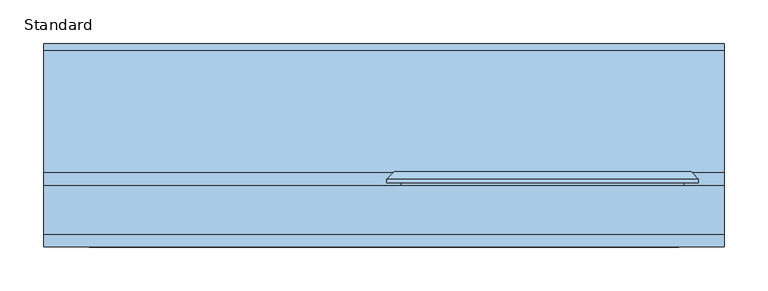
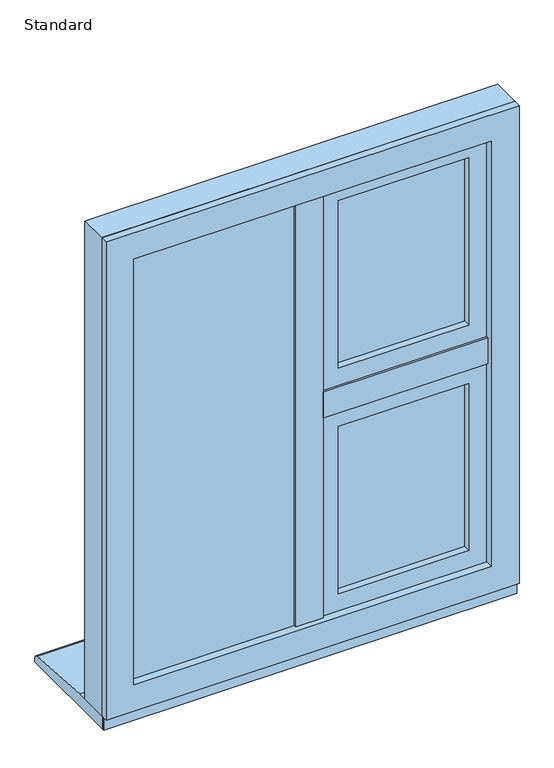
"""IFC4 building model written with IfcOpenShell, lengths in millimetres: window geometry, SMARTS_Alitherm600 : Standard."""

from ifc_helpers import new_model, si_unit, point, frame, frame_2d, origin, place, context, project, spatial, polyline, circle_curve, trimmed, segment, composite_curve, outline, extrude, faceted_brep, source, transform, mapped, element, save


def standard_4b04ff4b(model_context):
    return source(origin(), model_context, "Body", "SolidModel", [
        extrude(outline(polyline([(-9.4, 102.8298432), (9.4, 102.8298432), (9.4, 47.2458572), (-9.4, 47.2458572), (-9.4, 102.8298432)])), frame((0.0, 0.0, 670.8979117), z_axis=(0.0, 0.0, 1.0), x_axis=(1.0, 0.0, 0.0)), (0.0, 0.0, 1.0), 883.2041766),
        extrude(outline(polyline([(-25.9020883, 47.2458572), (25.9020883, 47.2458572), (25.9020883, 43.2798432), (-25.9020883, 43.2798432), (-25.9020883, 47.2458572)])), frame((0.0, 0.0, 687.4), z_axis=(0.0, 0.0, 1.0), x_axis=(1.0, 0.0, 0.0)), (0.0, 0.0, 1.0), 850.2),
        extrude(outline(polyline([(354.1020883, 102.8298432), (354.1020883, 47.2458572), (9.4979117, 47.2458572), (9.4979117, 102.8298432), (354.1020883, 102.8298432)])), frame((0.0, 0.0, 1103.1), z_axis=(0.0, 0.0, 1.0), x_axis=(1.0, 0.0, 0.0)), (0.0, 0.0, 1.0), 18.8),
        extrude(outline(polyline([(337.6, 47.2458572), (337.6, 43.2798432), (26.0, 43.2798432), (26.0, 47.2458572), (337.6, 47.2458572)])), frame((0.0, 0.0, 1086.5979117), z_axis=(0.0, 0.0, 1.0), x_axis=(1.0, 0.0, 0.0)), (0.0, 0.0, 1.0), 51.8041766),
        extrude(outline(polyline([(-352.6, 77.7798432), (-11.0, 77.7798432), (-11.0, 73.7798432), (-352.6, 73.7798432), (-352.6, 77.7798432)])), frame((0.0, 0.0, 672.4), z_axis=(0.0, 0.0, 1.0), x_axis=(1.0, 0.0, 0.0)), (0.0, 0.0, 1.0), 880.2),
        extrude(outline(polyline([(-352.6, 57.7798432), (-11.0, 57.7798432), (-11.0, 53.7798432), (-352.6, 53.7798432), (-352.6, 57.7798432)])), frame((0.0, 0.0, 672.4), z_axis=(0.0, 0.0, 1.0), x_axis=(1.0, 0.0, 0.0)), (0.0, 0.0, 1.0), 880.2),
        extrude(outline(polyline([(1552.6, -352.6), (672.4, -352.6), (672.4, -11.0), (1552.6, -11.0), (1552.6, -352.6)]), holes=[polyline([(1542.6, -21.0), (682.4, -21.0), (682.4, -342.6), (1542.6, -342.6), (1542.6, -21.0)])]), frame((0.0, 57.7798432, 0.0), z_axis=(0.0, 1.0, 0.0), x_axis=(0.0, 0.0, 1.0)), (0.0, 0.0, 1.0), 16.0),
        faceted_brep([(-349.4160653, 102.7798432, 1549.4160653), (-337.2339746, 81.6798432, 1537.2339746), (-337.2339746, 81.6798432, 687.7660254), (-349.4160653, 102.7798432, 675.5839347), (-26.3660254, 81.6798432, 687.7660254), (-14.1839347, 102.7798432, 675.5839347), (-26.3660254, 81.6798432, 1537.2339746), (-14.1839347, 102.7798432, 1549.4160653), (-9.5, 81.6798432, 1554.1), (-9.5, 102.7798432, 1554.1), (-354.1, 102.7798432, 1554.1), (-354.1, 81.6798432, 1554.1), (-354.1, 102.7798432, 670.9), (-354.1, 81.6798432, 670.9), (-9.5, 102.7798432, 670.9), (-9.5, 81.6798432, 670.9)], [[[0, 1, 2, 3]], [[3, 2, 4, 5]], [[5, 4, 6, 7]], [[7, 6, 1, 0]], [[8, 9, 10, 11]], [[11, 10, 12, 13]], [[13, 12, 14, 15]], [[9, 14, 12, 10], [0, 3, 5, 7]], [[15, 14, 9, 8]], [[11, 13, 15, 8], [6, 4, 2, 1]]]),
        extrude(outline(polyline([(1065.5, 47.0), (708.4, 47.0), (708.4, 316.6), (1065.5, 316.6), (1065.5, 47.0)]), holes=[polyline([(1055.5, 306.6), (718.4, 306.6), (718.4, 57.0), (1055.5, 57.0), (1055.5, 306.6)])]), frame((0.0, 72.3211351, 0.0), z_axis=(0.0, 1.0, 0.0), x_axis=(0.0, 0.0, 1.0)), (0.0, 0.0, 1.0), 16.0),
        extrude(outline(polyline([(47.0, 92.3211351), (316.6, 92.3211351), (316.6, 88.3211351), (47.0, 88.3211351), (47.0, 92.3211351)])), frame((0.0, 0.0, 708.4), z_axis=(0.0, 0.0, 1.0), x_axis=(1.0, 0.0, 0.0)), (0.0, 0.0, 1.0), 357.1),
        extrude(outline(polyline([(47.0, 72.3211351), (316.6, 72.3211351), (316.6, 68.3211351), (47.0, 68.3211351), (47.0, 72.3211351)])), frame((0.0, 0.0, 708.4), z_axis=(0.0, 0.0, 1.0), x_axis=(1.0, 0.0, 0.0)), (0.0, 0.0, 1.0), 357.1),
        faceted_brep([(316.9221147, 118.8818325, 1065.8221147), (304.740024, 97.7818325, 1053.640024), (58.859976, 97.7818325, 1053.640024), (46.6778853, 118.8818325, 1065.8221147), (321.6060494, 97.7818325, 1070.5060494), (321.6060494, 118.8818325, 1070.5060494), (41.9939506, 118.8818325, 1070.5060494), (41.9939506, 97.7818325, 1070.5060494), (58.859976, 97.7818325, 720.259976), (46.6778853, 118.8818325, 708.0778853), (41.9939506, 118.8818325, 703.3939506), (41.9939506, 97.7818325, 703.3939506), (304.740024, 97.7818325, 720.259976), (316.9221147, 118.8818325, 708.0778853), (321.6060494, 118.8818325, 703.3939506), (321.6060494, 97.7818325, 703.3939506)], [[[0, 1, 2, 3]], [[4, 5, 6, 7]], [[3, 2, 8, 9]], [[7, 6, 10, 11]], [[9, 8, 12, 13]], [[11, 10, 14, 15]], [[13, 12, 1, 0]], [[5, 14, 10, 6], [3, 9, 13, 0]], [[15, 14, 5, 4]], [[7, 11, 15, 4], [1, 12, 8, 2]]]),
        extrude(outline(polyline([(681.552908, 20.152908), (681.552908, 343.447092), (1092.347092, 343.447092), (1092.347092, 20.152908), (681.552908, 20.152908)]), holes=[polyline([(1054.0, 58.5), (1054.0, 305.1), (719.9, 305.1), (719.9, 58.5), (1054.0, 58.5)])]), frame((0.0, 50.2798432, 0.0), z_axis=(0.0, 1.0, 0.0), x_axis=(0.0, 0.0, 1.0)), (0.0, 0.0, 1.0), 13.0853156),
        faceted_brep([(41.9939506, 118.8818325, 1070.5060494), (41.9939506, 63.3651588, 1070.5060494), (41.9939506, 63.3651588, 703.3939506), (41.9939506, 118.8818325, 703.3939506), (321.6060494, 63.3651588, 703.3939506), (321.6060494, 118.8818325, 703.3939506), (321.6060494, 63.3651588, 1070.5060494), (321.6060494, 118.8818325, 1070.5060494), (3.2641012, 106.2818325, 1109.2358988), (3.2641012, 110.3519831, 1109.2358988), (3.2641012, 110.3519831, 664.6641012), (3.2641012, 106.2818325, 664.6641012), (360.3358988, 110.3519831, 664.6641012), (360.3358988, 106.2818325, 664.6641012), (360.3358988, 110.3519831, 1109.2358988), (360.3358988, 106.2818325, 1109.2358988), (19.8532343, 106.2818325, 1092.6467657), (343.7467657, 106.2818325, 1092.6467657), (343.7467657, 106.2818325, 681.2532343), (19.8532343, 106.2818325, 681.2532343), (11.7939506, 118.8818325, 1100.7060494), (351.8060494, 118.8818325, 1100.7060494), (351.8060494, 118.8818325, 673.1939506), (11.7939506, 118.8818325, 673.1939506), (19.8532343, 63.3651588, 1092.6467657), (19.8532343, 63.3651588, 681.2532343), (343.7467657, 63.3651588, 681.2532343), (343.7467657, 63.3651588, 1092.6467657)], [[[0, 1, 2, 3]], [[3, 2, 4, 5]], [[5, 4, 6, 7]], [[7, 6, 1, 0]], [[8, 9, 10, 11]], [[11, 10, 12, 13]], [[13, 12, 14, 15]], [[11, 13, 15, 8], [16, 17, 18, 19]], [[15, 14, 9, 8]], [[20, 21, 22, 23], [3, 5, 7, 0]], [[24, 16, 19, 25]], [[25, 19, 18, 26]], [[26, 18, 17, 27]], [[25, 26, 27, 24], [1, 6, 4, 2]], [[27, 17, 16, 24]], [[9, 20, 23, 10]], [[10, 23, 22, 12]], [[12, 22, 21, 14]], [[14, 21, 20, 9]]]),
        extrude(outline(polyline([(1590.0, 390.0), (1590.0, -390.0), (635.0, -390.0), (635.0, 390.0), (1590.0, 390.0)]), holes=[polyline([(670.85, 354.15), (670.85, -354.15), (1554.15, -354.15), (1554.15, 354.15), (670.85, 354.15)])]), frame((0.0, 47.2798427, 0.0), z_axis=(0.0, 1.0, 0.0), x_axis=(0.0, 0.0, 1.0)), (0.0, 0.0, 1.0), 55.5500006),
        extrude(outline(polyline([(1590.0, 390.0), (1590.0, -390.0), (635.0, -390.0), (635.0, 390.0), (1590.0, 390.0)]), holes=[polyline([(687.35, 337.65), (687.35, -337.65), (1537.65, -337.65), (1537.65, 337.65), (687.35, 337.65)])]), frame((0.0, 32.8298432, 0.0), z_axis=(0.0, 1.0, 0.0), x_axis=(0.0, 0.0, 1.0)), (0.0, 0.0, 1.0), 14.4499994),
        extrude(outline(polyline([(1516.6, 47.0), (1159.5, 47.0), (1159.5, 316.6), (1516.6, 316.6), (1516.6, 47.0)]), holes=[polyline([(1506.6, 306.6), (1169.5, 306.6), (1169.5, 57.0), (1506.6, 57.0), (1506.6, 306.6)])]), frame((0.0, 72.3211351, 0.0), z_axis=(0.0, 1.0, 0.0), x_axis=(0.0, 0.0, 1.0)), (0.0, 0.0, 1.0), 16.0),
        extrude(outline(polyline([(47.0, 92.3211351), (316.6, 92.3211351), (316.6, 88.3211351), (47.0, 88.3211351), (47.0, 92.3211351)])), frame((0.0, 0.0, 1159.5), z_axis=(0.0, 0.0, 1.0), x_axis=(1.0, 0.0, 0.0)), (0.0, 0.0, 1.0), 357.1),
        extrude(outline(polyline([(47.0, 72.3211351), (316.6, 72.3211351), (316.6, 68.3211351), (47.0, 68.3211351), (47.0, 72.3211351)])), frame((0.0, 0.0, 1159.5), z_axis=(0.0, 0.0, 1.0), x_axis=(1.0, 0.0, 0.0)), (0.0, 0.0, 1.0), 357.1),
        faceted_brep([(316.9221147, 118.8818325, 1516.9221147), (304.740024, 97.7818325, 1504.740024), (58.859976, 97.7818325, 1504.740024), (46.6778853, 118.8818325, 1516.9221147), (321.6060494, 97.7818325, 1521.6060494), (321.6060494, 118.8818325, 1521.6060494), (41.9939506, 118.8818325, 1521.6060494), (41.9939506, 97.7818325, 1521.6060494), (58.859976, 97.7818325, 1171.359976), (46.6778853, 118.8818325, 1159.1778853), (41.9939506, 118.8818325, 1154.4939506), (41.9939506, 97.7818325, 1154.4939506), (304.740024, 97.7818325, 1171.359976), (316.9221147, 118.8818325, 1159.1778853), (321.6060494, 118.8818325, 1154.4939506), (321.6060494, 97.7818325, 1154.4939506)], [[[0, 1, 2, 3]], [[4, 5, 6, 7]], [[3, 2, 8, 9]], [[7, 6, 10, 11]], [[9, 8, 12, 13]], [[11, 10, 14, 15]], [[13, 12, 1, 0]], [[5, 14, 10, 6], [3, 9, 13, 0]], [[15, 14, 5, 4]], [[7, 11, 15, 4], [1, 12, 8, 2]]]),
        extrude(outline(polyline([(1132.652908, 20.152908), (1132.652908, 343.447092), (1543.447092, 343.447092), (1543.447092, 20.152908), (1132.652908, 20.152908)]), holes=[polyline([(1505.1, 58.5), (1505.1, 305.1), (1171.0, 305.1), (1171.0, 58.5), (1505.1, 58.5)])]), frame((0.0, 50.2798432, 0.0), z_axis=(0.0, 1.0, 0.0), x_axis=(0.0, 0.0, 1.0)), (0.0, 0.0, 1.0), 13.0853156),
        faceted_brep([(41.9939506, 118.8818325, 1521.6060494), (41.9939506, 63.3651588, 1521.6060494), (41.9939506, 63.3651588, 1154.4939506), (41.9939506, 118.8818325, 1154.4939506), (321.6060494, 63.3651588, 1154.4939506), (321.6060494, 118.8818325, 1154.4939506), (321.6060494, 63.3651588, 1521.6060494), (321.6060494, 118.8818325, 1521.6060494), (3.2641012, 106.2818325, 1560.3358988), (3.2641012, 110.3519831, 1560.3358988), (3.2641012, 110.3519831, 1115.7641012), (3.2641012, 106.2818325, 1115.7641012), (360.3358988, 110.3519831, 1115.7641012), (360.3358988, 106.2818325, 1115.7641012), (360.3358988, 110.3519831, 1560.3358988), (360.3358988, 106.2818325, 1560.3358988), (19.8532343, 106.2818325, 1543.7467657), (343.7467657, 106.2818325, 1543.7467657), (343.7467657, 106.2818325, 1132.3532343), (19.8532343, 106.2818325, 1132.3532343), (11.7939506, 118.8818325, 1551.8060494), (351.8060494, 118.8818325, 1551.8060494), (351.8060494, 118.8818325, 1124.2939506), (11.7939506, 118.8818325, 1124.2939506), (19.8532343, 63.3651588, 1543.7467657), (19.8532343, 63.3651588, 1132.3532343), (343.7467657, 63.3651588, 1132.3532343), (343.7467657, 63.3651588, 1543.7467657)], [[[0, 1, 2, 3]], [[3, 2, 4, 5]], [[5, 4, 6, 7]], [[7, 6, 1, 0]], [[8, 9, 10, 11]], [[11, 10, 12, 13]], [[13, 12, 14, 15]], [[11, 13, 15, 8], [16, 17, 18, 19]], [[15, 14, 9, 8]], [[20, 21, 22, 23], [3, 5, 7, 0]], [[24, 16, 19, 25]], [[25, 19, 18, 26]], [[26, 18, 17, 27]], [[25, 26, 27, 24], [1, 6, 4, 2]], [[27, 17, 16, 24]], [[9, 20, 23, 10]], [[10, 23, 22, 12]], [[12, 22, 21, 14]], [[14, 21, 20, 9]]]),
        extrude(outline(polyline([(390.0, 43.2798432), (390.0, 40.7798432), (-390.0, 40.7798432), (-390.0, 43.2798432), (390.0, 43.2798432)])), frame((0.0, 0.0, 610.0), z_axis=(0.0, 0.0, 1.0), x_axis=(1.0, 0.0, 0.0)), (0.0, 0.0, 1.0), 31.0),
        extrude(outline(composite_curve([segment(polyline([(265.7798432, 610.0), (43.2798432, 610.0), (43.2798432, 635.0), (118.7798432, 635.0), (258.4770891, 625.9276664)]), True, "CONTINUOUS"), segment(trimmed(circle_curve(frame_2d((257.7798432, 617.9581088)), 8.0), [point((258.4770891, 625.9276664))], [point((265.7798432, 617.9581088))], False, "CARTESIAN"), True, "CONTINUOUS"), segment(polyline([(265.7798432, 617.9581088), (265.7798432, 610.0)]), True, "CONTINUOUS")], self_intersect=False)), frame((-390.0, 0.0, 0.0), z_axis=(1.0, 0.0, 0.0), x_axis=(0.0, 1.0, 0.0)), (0.0, 0.0, 1.0), 780.0),
    ])


if __name__ == "__main__":
    model = new_model("IFC4")
    model_context = context("Model", 3, world=origin())
    ifc_project = project(units=[si_unit("LENGTHUNIT", "METRE", prefix="MILLI")], contexts=[model_context])
    site = spatial("IfcSite", under=ifc_project)
    building = spatial("IfcBuilding", under=site)
    placement = place(None, origin())
    standard_shape = standard_4b04ff4b(model_context)
    element("IfcWindow", 1, ObjectType="SMARTS_Alitherm600 : Standard", at=placement, inside=building, context=model_context, shape_type="MappedRepresentation", body=[
        mapped(standard_shape, transform((0.0, 0.0, 0.0), x_axis=(1.0, 0.0, 0.0), y_axis=(0.0, 1.0, 0.0), z_axis=(0.0, 0.0, 1.0))),
    ])
    save(model, "model.ifc")
